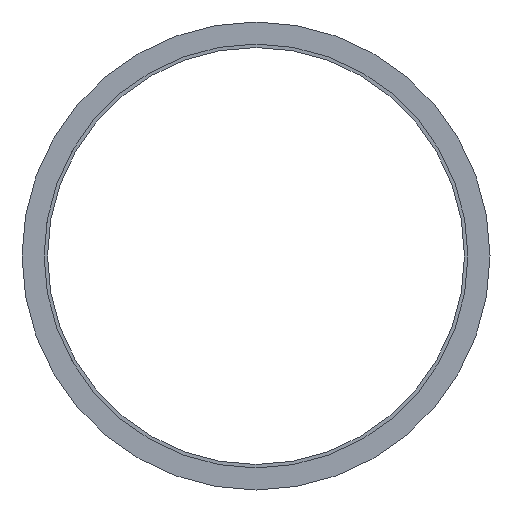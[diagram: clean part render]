
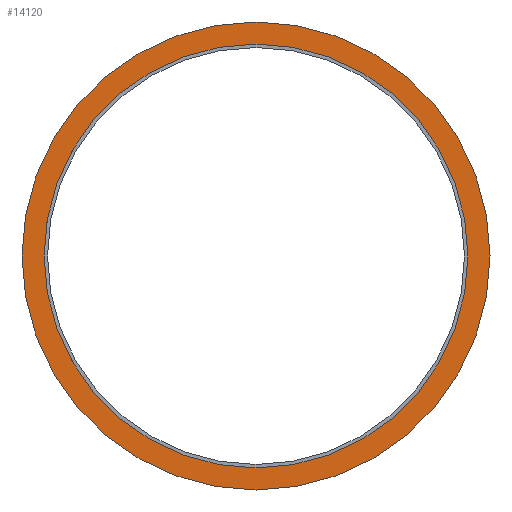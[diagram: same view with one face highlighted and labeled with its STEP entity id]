
A CAD part, left-side view. The second image highlights one B-rep face of the part: STEP entity #14120.
In plain terms, the highlighted planar face has unit normal (-1, 0, 0).
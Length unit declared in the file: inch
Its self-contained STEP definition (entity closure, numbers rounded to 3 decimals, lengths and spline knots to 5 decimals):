
#14078=CARTESIAN_POINT('',(0.125,4.94,0.0));
#14079=VERTEX_POINT('',#14078);
#14080=CARTESIAN_POINT('',(0.125,0.0,0.0));
#14081=DIRECTION('',(1.0,0.0,0.0));
#14082=DIRECTION('',(0.0,1.0,0.0));
#14083=AXIS2_PLACEMENT_3D('',#14080,#14081,#14082);
#14084=CIRCLE('',#14083,4.94);
#14085=EDGE_CURVE('',#14079,#14079,#14084,.T.);
#14101=CARTESIAN_POINT('',(0.125,5.1975,0.0));
#14102=DIRECTION('',(-1.0,0.0,0.0));
#14103=DIRECTION('',(0.0,0.0,1.0));
#14104=AXIS2_PLACEMENT_3D('',#14101,#14102,#14103);
#14105=PLANE('',#14104);
#14106=CARTESIAN_POINT('',(0.125,5.455,0.0));
#14107=VERTEX_POINT('',#14106);
#14108=CARTESIAN_POINT('',(0.125,0.0,0.0));
#14109=DIRECTION('',(1.0,0.0,0.0));
#14110=DIRECTION('',(0.0,1.0,0.0));
#14111=AXIS2_PLACEMENT_3D('',#14108,#14109,#14110);
#14112=CIRCLE('',#14111,5.455);
#14113=EDGE_CURVE('',#14107,#14107,#14112,.T.);
#14114=ORIENTED_EDGE('',*,*,#14113,.F.);
#14115=EDGE_LOOP('',(#14114));
#14116=FACE_OUTER_BOUND('',#14115,.T.);
#14117=ORIENTED_EDGE('',*,*,#14085,.T.);
#14118=EDGE_LOOP('',(#14117));
#14119=FACE_BOUND('',#14118,.T.);
#14120=ADVANCED_FACE('',(#14116,#14119),#14105,.T.);
